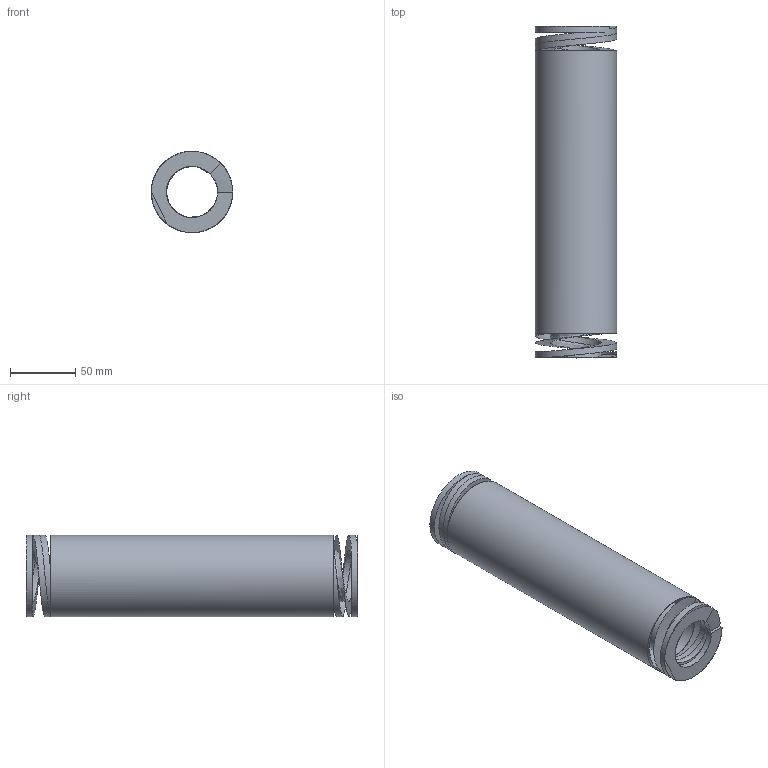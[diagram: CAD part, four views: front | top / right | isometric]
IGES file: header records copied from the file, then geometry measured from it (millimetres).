
Global section: file name: 2S63252; native system: Autodesk Inventor 2026; preprocessor: unknown; author: J. Iwanek; date: 20261007.113558; units: millimetre
Bounding box: 62.2 x 254 x 62.21 mm (x, y, z)
Volume: 439388.9 mm3; surface area: 89318.6 mm2
Topology: 1 solids, 1 shells, 22 faces, 82 edges, 50 vertices
Faces by surface type: bspline 22
